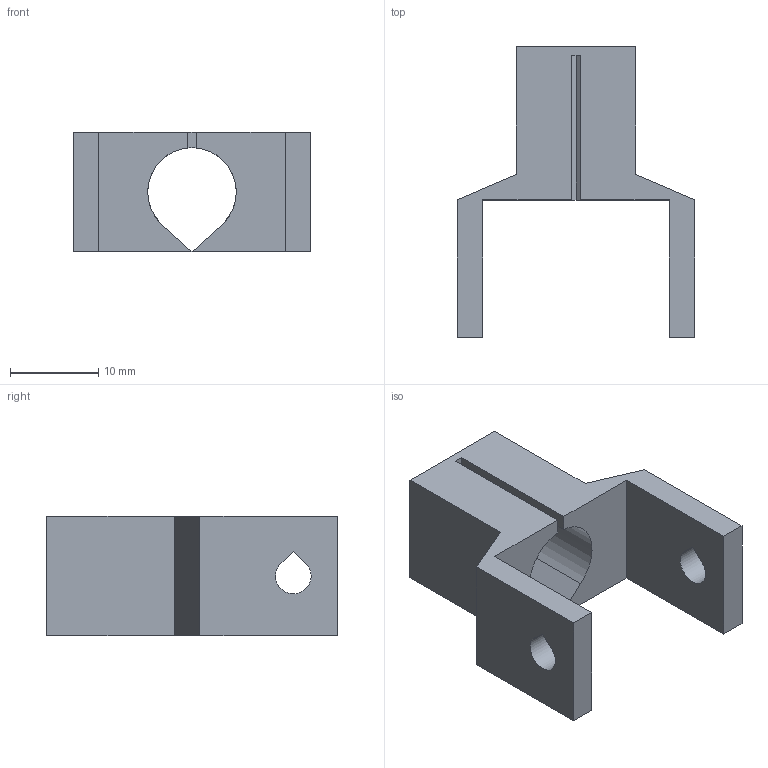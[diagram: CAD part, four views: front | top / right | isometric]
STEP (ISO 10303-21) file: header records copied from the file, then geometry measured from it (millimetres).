
FILE_DESCRIPTION(('Open CASCADE Model'),'2;1');
FILE_NAME('COMPOUND','2026-10-16T15:25:18',('Author'),('Open CASCADE'), 'Open CASCADE STEP processor 7.8','build123d','Unknown');
FILE_SCHEMA(('AUTOMOTIVE_DESIGN { 1 0 10303 214 1 1 1 1 }'));
Length unit declared in the file: millimetre
Products named in the file (2): =>[0:1:1:2]; COMPOUND
Assembly tree (1 placements, depth 2):
  =>[0:1:1:2]
    COMPOUND
Bounding box: 27 x 33 x 13.6 mm (x, y, z)
Volume: 3150.4 mm3; surface area: 3148.5 mm2
Topology: 1 solids, 1 shells, 26 faces, 75 edges, 50 vertices
Faces by surface type: plane 23, cylinder 3
Entity records: 1878 total; most frequent: CARTESIAN_POINT 341, DIRECTION 281, LINE 207, VECTOR 207, ORIENTED_EDGE 150, PCURVE 150, DEFINITIONAL_REPRESENTATION 150, EDGE_CURVE 75
